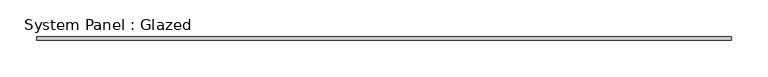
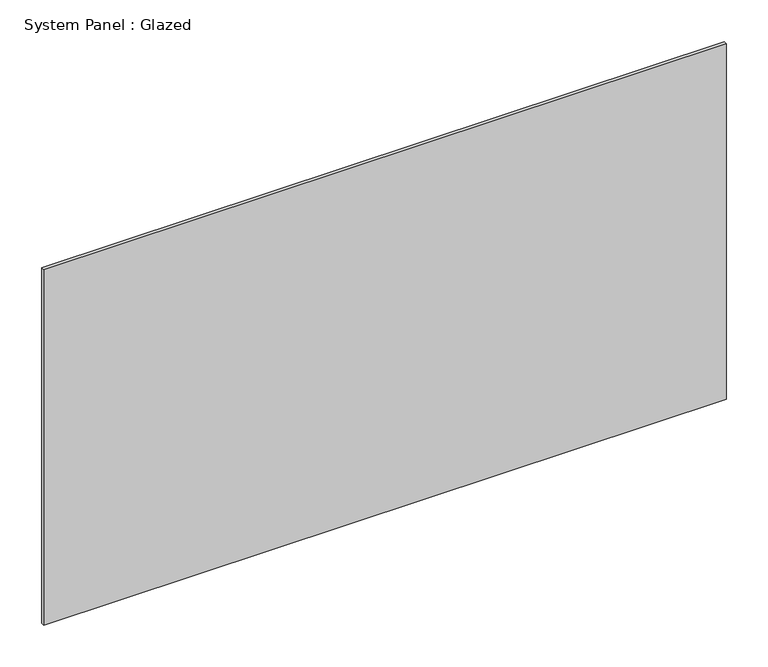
"""IFC4 building model written with IfcOpenShell, lengths in millimetres: plate geometry, System Panel : Glazed."""

from ifc_helpers import new_model, si_unit, origin, origin_with_axes, place, context, project, spatial, polyline, outline, extrude, source, transform, mapped, element, save


def system_panel_glazed_ce9ce1f6(model_context):
    return source(origin(), model_context, "Body", "SweptSolid", [
        extrude(outline(polyline([(475.0, -2.5), (-475.0, -2.5), (-475.0, 2.5), (475.0, 2.5), (475.0, -2.5)])), origin_with_axes(), (0.0, 0.0, 1.0), 522.9584148),
    ])


if __name__ == "__main__":
    model = new_model("IFC4")
    model_context = context("Model", 3, world=origin())
    ifc_project = project(units=[si_unit("LENGTHUNIT", "METRE", prefix="MILLI")], contexts=[model_context])
    site = spatial("IfcSite", under=ifc_project)
    building = spatial("IfcBuilding", under=site)
    placement = place(None, origin())
    system_panel_glazed_shape = system_panel_glazed_ce9ce1f6(model_context)
    element("IfcPlate", 1, ObjectType="System Panel : Glazed", at=placement, inside=building, context=model_context, shape_type="MappedRepresentation", body=[
        mapped(system_panel_glazed_shape, transform((0.0, 0.0, 0.0), x_axis=(1.0, 0.0, 0.0), y_axis=(0.0, 1.0, 0.0), z_axis=(0.0, 0.0, 1.0))),
    ])
    save(model, "model.ifc")
